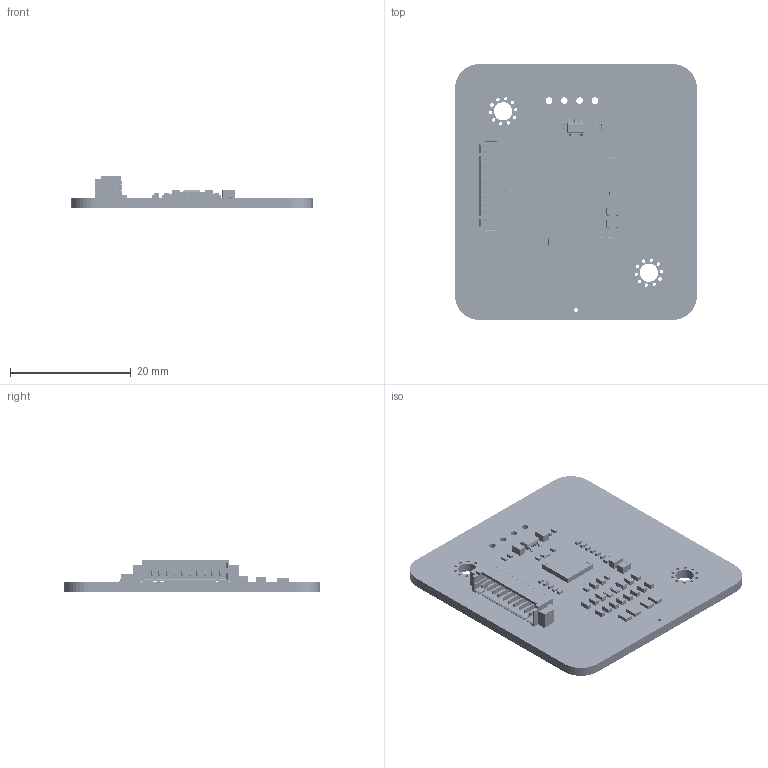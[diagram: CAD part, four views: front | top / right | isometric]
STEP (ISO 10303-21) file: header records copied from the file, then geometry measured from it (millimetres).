
FILE_DESCRIPTION(('Designed by EasyEDA Pro'),'2;1');
FILE_NAME('Open CASCADE Shape Model','2025-12-24T16:24:35',('Author'),( 'Open CASCADE'),'Open CASCADE STEP processor 7.8','Open CASCADE 7.8' ,'Unknown');
FILE_SCHEMA(('AUTOMOTIVE_DESIGN { 1 0 10303 214 1 1 1 1 }'));
Length unit declared in the file: millimetre
Products named in the file (70): EasyEDA PCB Model~5rRA; Board~5rRA; TopCopper~5rRA; BottomCopper~5rRA; TopSilkscreen~5rRA; BottomSilkscreen~5rRA; TopFpcStiffener~5rRA; BottomFpcStiffener~5rRA; C0603~C0603_L1.6-W0.8-H0.8~Eto1; C15~C0603~C0603_L1.6-W0.8-H0.8~P7SN; C16~C0603~C0603_L1.6-W0.8-H0.8~onWG; C17~C0603~C0603_L1.6-W0.8-H0.8~H7G0; C18~C0603~C0603_L1.6-W0.8-H0.8~uyLv; C19~C0603~C0603_L1.6-W0.8-H0.8~edVa; C20~C0603~C0603_L1.6-W0.8-H0.8~AVNW; C21~C0603~C0603_L1.6-W0.8-H0.8~cGfo; C22~C0603~C0603_L1.6-W0.8-H0.8~eWVq; C24~C0603~C0603_L1.6-W0.8-H0.8~qu4q; C25~C0603~C0603_L1.6-W0.8-H0.8~l4mW; C26~C0603~C0603_L1.6-W0.8-H0.8~wWJU; C27~C0603~C0603_L1.6-W0.8-H0.8~7QnG; C29~C0603~C0603_L1.6-W0.8-H0.8~nOA9; C30~C0603~C0603_L1.6-W0.8-H0.8~0Njo; R0603~R0603~EHey; R3~R0603~R0603~5Oph; R5~R0603~R0603~Gptw; L0603~L0603_L1.6-W0.8-H0.5_BEAD~IF68; L1~L0603~L0603_L1.6-W0.8-H0.5_BEAD~wvpM; C0805~C0805_L2.0-W1.3-H1.3~SQ25; C40~C0805~C0805_L2.0-W1.3-H1.3~pn1v; C41~C0805~C0805_L2.0-W1.3-H1.3~DODY; C42~C0805~C0805_L2.0-W1.3-H1.3~Cghg; C43~C0805~C0805_L2.0-W1.3-H1.3~pgqC; R0402~R0402_L1.0-W0.5-H0.4~8DZn; R1~R0402~R0402_L1.0-W0.5-H0.4~BMoj; R11~R0402~R0402_L1.0-W0.5-H0.4~9EXx; C0402~C0402_L1.0-W0.5-H0.5~wy3y; C1~C0402~C0402_L1.0-W0.5-H0.5~y1ft; C2~C0402~C0402_L1.0-W0.5-H0.5~5qvj; C3~C0402~C0402_L1.0-W0.5-H0.5~QwbI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
Assembly tree (107 placements, depth 3):
  EasyEDA PCB Model~5rRA
    Board~5rRA
    TopCopper~5rRA
    BottomCopper~5rRA
    TopSilkscreen~5rRA
    BottomSilkscreen~5rRA
    TopFpcStiffener~5rRA
    BottomFpcStiffener~5rRA
    C15~C0603~C0603_L1.6-W0.8-H0.8~P7SN
      C0603~C0603_L1.6-W0.8-H0.8~Eto1
    C16~C0603~C0603_L1.6-W0.8-H0.8~onWG
      C0603~C0603_L1.6-W0.8-H0.8~Eto1
    C17~C0603~C0603_L1.6-W0.8-H0.8~H7G0
      C0603~C0603_L1.6-W0.8-H0.8~Eto1
    C18~C0603~C0603_L1.6-W0.8-H0.8~uyLv
      C0603~C0603_L1.6-W0.8-H0.8~Eto1
    C19~C0603~C0603_L1.6-W0.8-H0.8~edVa
      C0603~C0603_L1.6-W0.8-H0.8~Eto1
    C20~C0603~C0603_L1.6-W0.8-H0.8~AVNW
      C0603~C0603_L1.6-W0.8-H0.8~Eto1
    C21~C0603~C0603_L1.6-W0.8-H0.8~cGfo
      C0603~C0603_L1.6-W0.8-H0.8~Eto1
    C22~C0603~C0603_L1.6-W0.8-H0.8~eWVq
      C0603~C0603_L1.6-W0.8-H0.8~Eto1
    C24~C0603~C0603_L1.6-W0.8-H0.8~qu4q
      C0603~C0603_L1.6-W0.8-H0.8~Eto1
    C25~C0603~C0603_L1.6-W0.8-H0.8~l4mW
      C0603~C0603_L1.6-W0.8-H0.8~Eto1
    C26~C0603~C0603_L1.6-W0.8-H0.8~wWJU
      C0603~C0603_L1.6-W0.8-H0.8~Eto1
    C27~C0603~C0603_L1.6-W0.8-H0.8~7QnG
      C0603~C0603_L1.6-W0.8-H0.8~Eto1
    C29~C0603~C0603_L1.6-W0.8-H0.8~nOA9
      C0603~C0603_L1.6-W0.8-H0.8~Eto1
    C30~C0603~C0603_L1.6-W0.8-H0.8~0Njo
      C0603~C0603_L1.6-W0.8-H0.8~Eto1
    R3~R0603~R0603~5Oph
      R0603~R0603~EHey
    R5~R0603~R0603~Gptw
      R0603~R0603~EHey
    L1~L0603~L0603_L1.6-W0.8-H0.5_BEAD~wvpM
      L0603~L0603_L1.6-W0.8-H0.5_BEAD~IF68
    C40~C0805~C0805_L2.0-W1.3-H1.3~pn1v
      C0805~C0805_L2.0-W1.3-H1.3~SQ25
    C41~C0805~C0805_L2.0-W1.3-H1.3~DODY
      C0805~C0805_L2.0-W1.3-H1.3~SQ25
    C42~C0805~C0805_L2.0-W1.3-H1.3~Cghg
      C0805~C0805_L2.0-W1.3-H1.3~SQ25
    C43~C0805~C0805_L2.0-W1.3-H1.3~pgqC
      C0805~C0805_L2.0-W1.3-H1.3~SQ25
    R1~R0402~R0402_L1.0-W0.5-H0.4~BMoj
      R0402~R0402_L1.0-W0.5-H0.4~8DZn
    R11~R0402~R0402_L1.0-W0.5-H0.4~9EXx
      R0402~R0402_L1.0-W0.5-H0.4~8DZn
    C1~C0402~C0402_L1.0-W0.5-H0.5~y1ft
      C0402~C0402_L1.0-W0.5-H0.5~wy3y
    C2~C0402~C0402_L1.0-W0.5-H0.5~5qvj
      C0402~C0402_L1.0-W0.5-H0.5~wy3y
    C3~C0402~C0402_L1.0-W0.5-H0.5~QwbI
      C0402~C0402_L1.0-W0.5-H0.5~wy3y
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Bounding box: 39.99 x 42.34 x 5.19 mm (x, y, z)
Volume: 2839.7 mm3; surface area: 4890.6 mm2
Topology: 131 solids, 354 shells, 18610 faces, 60881 edges, 43684 vertices
Faces by surface type: plane 10622, bspline 5623, cylinder 1976, sphere 329, torus 60
Entity records: 328734 total; most frequent: CARTESIAN_POINT 83802, ORIENTED_EDGE 38161, DIRECTION 32671, EDGE_CURVE 24981, VERTEX_POINT 20404, LINE 19497, VECTOR 19497, AXIS2_PLACEMENT_3D 6587
